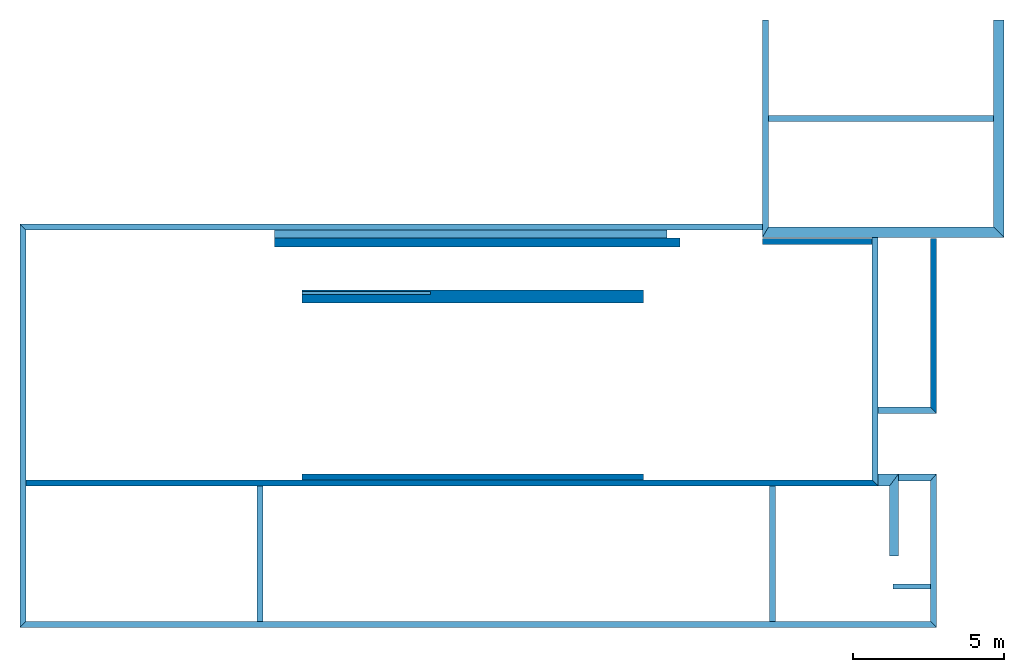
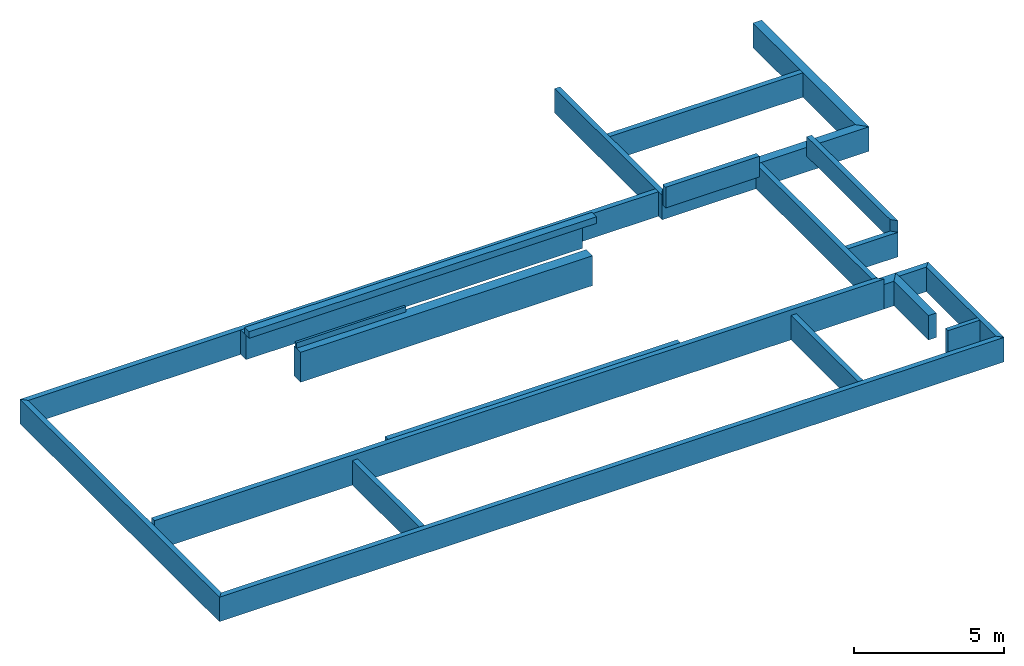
# One storey: 24 walls.
"""IFC2X3 building model written with IfcOpenShell, lengths in metres."""

import ifcopenshell
import ifcopenshell.guid

model = None  # the IFC model being written
_history = None  # IfcOwnerHistory: only IFC2X3 demands one
_inside = {}  # id of a spatial element -> (the spatial element, [elements in it])
_under = {}  # id of a project, library or spatial element -> (it, [spatial elements below it])
_declared = {}  # id of a project -> (the project, [libraries it declares])
_typed = {}  # id of a type object -> (the type object, [elements of that type])
_made_of = {}  # id of a material, layer set ... -> (it, [elements and type objects made of it])


def new_model(schema):
    """Start an empty IFC model of exactly this schema.

    Asked for "IFC4X3", IfcOpenShell would pick the latest addendum, in which some entities
    have other attributes; the version numbers below select the first issue.
    IFC2X3 requires an IfcOwnerHistory on every rooted entity: one is made here for all.
    """
    global model, _history
    if schema == "IFC4X3":
        model = ifcopenshell.file(schema_version=(4, 3, 0, 0))
    else:
        model = ifcopenshell.file(schema=schema)
    _inside.clear()
    _under.clear()
    _declared.clear()
    _typed.clear()
    _made_of.clear()
    _history = None
    if model.schema == "IFC2X3":
        org = make("IfcOrganization", Name="unknown")
        user = make(
            "IfcPersonAndOrganization",
            ThePerson=make("IfcPerson", FamilyName="unknown"),
            TheOrganization=org,
        )
        app = make(
            "IfcApplication",
            ApplicationDeveloper=org,
            Version="unknown",
            ApplicationFullName="unknown",
            ApplicationIdentifier="unknown",
        )
        _history = make(
            "IfcOwnerHistory",
            OwningUser=user,
            OwningApplication=app,
            ChangeAction="ADDED",
            CreationDate=0,
        )
    return model


def make(cls, **values):
    """One entity of the class cls with the attributes given. An attribute that is None is left unset."""
    return model.create_entity(
        cls, **{name: value for name, value in values.items() if value is not None}
    )


def entity(cls, *values):
    """Any entity or typed value of the class cls, its attributes in the order of the schema. None: left unset."""
    e = model.create_entity(cls)
    for i, value in enumerate(values):
        if value is not None:
            e[i] = value
    return e


def rooted(cls, **values):
    """An entity with a GlobalId (a new one), such as an element, a storey or a relation."""
    return make(cls, GlobalId=ifcopenshell.guid.new(), OwnerHistory=_history, **values)


def si_unit(unit_type, name, prefix=None):
    """IfcSIUnit, for example si_unit("LENGTHUNIT", "METRE", prefix="MILLI")."""
    return make("IfcSIUnit", UnitType=unit_type, Prefix=prefix, Name=name)


def converted_unit(unit_type, name, factor, base, dimensions=None, offset=None):
    """IfcConversionBasedUnit, such as the inch: factor (a typed value) times the base unit."""
    return make(
        "IfcConversionBasedUnit"
        if offset is None
        else "IfcConversionBasedUnitWithOffset",
        ConversionOffset=offset,
        Dimensions=None
        if dimensions is None
        else entity("IfcDimensionalExponents", *dimensions),
        UnitType=unit_type,
        Name=name,
        ConversionFactor=make(
            "IfcMeasureWithUnit", ValueComponent=factor, UnitComponent=base
        ),
    )


def derived_unit(unit_type, elements):
    """IfcDerivedUnit: a product of units, each with its exponent."""
    return make(
        "IfcDerivedUnit",
        Elements=[
            make("IfcDerivedUnitElement", Unit=unit, Exponent=power)
            for unit, power in elements
        ],
        UnitType=unit_type,
    )


def money_unit(currency):
    """IfcMonetaryUnit."""
    return make("IfcMonetaryUnit", Currency=currency)


def assignment(units):
    """IfcUnitAssignment: the units of a project."""
    return None if units is None else make("IfcUnitAssignment", Units=units)


def point(xyz):
    """IfcCartesianPoint."""
    return None if xyz is None else make("IfcCartesianPoint", Coordinates=xyz)


def direction(xyz):
    """IfcDirection."""
    return None if xyz is None else make("IfcDirection", DirectionRatios=xyz)


def frame(location, z_axis=None, x_axis=None):
    """IfcAxis2Placement3D, a coordinate frame: its origin and axes. An axis left out is left unset."""
    return make(
        "IfcAxis2Placement3D",
        Location=point(location),
        Axis=direction(z_axis),
        RefDirection=direction(x_axis),
    )


def origin_with_axes():
    """The frame at (0, 0, 0) with the z axis (0, 0, 1) and the x axis (1, 0, 0) written out."""
    return frame((0.0, 0.0, 0.0), z_axis=(0.0, 0.0, 1.0), x_axis=(1.0, 0.0, 0.0))


def place(relative_to, where):
    """IfcLocalPlacement: puts the frame where relative to a parent placement (None: the world)."""
    return make(
        "IfcLocalPlacement", PlacementRelTo=relative_to, RelativePlacement=where
    )


def context(
    kind, dimensions, precision=None, world=None, true_north=None, identifier=None
):
    """IfcGeometricRepresentationContext, for example the 3D "Model" context."""
    return make(
        "IfcGeometricRepresentationContext",
        ContextIdentifier=identifier,
        ContextType=kind,
        CoordinateSpaceDimension=dimensions,
        Precision=precision,
        WorldCoordinateSystem=world,
        TrueNorth=true_north,
    )


def subcontext(parent, identifier, kind, view, scale=None):
    """IfcGeometricRepresentationSubContext, for example "Body" below "Model"."""
    return make(
        "IfcGeometricRepresentationSubContext",
        ContextIdentifier=identifier,
        ContextType=kind,
        ParentContext=parent,
        TargetScale=scale,
        TargetView=view,
    )


def project(units=None, contexts=None):
    """IfcProject with its units and contexts."""
    return rooted(
        "IfcProject",
        Name="project",
        RepresentationContexts=contexts,
        UnitsInContext=assignment(units),
    )


def spatial(cls, under=None, at=None, **own):
    """A site, building, storey or space (cls), placed at a placement, below another one or the project."""
    s = rooted(cls, ObjectPlacement=at, **own)
    if under is not None:
        _under.setdefault(under.id(), (under, []))[1].append(s)
    return s


def polyline(points):
    """IfcPolyline through the points."""
    return make("IfcPolyline", Points=[point(p) for p in points])


def outline(outer, holes=None, kind="AREA"):
    """IfcArbitraryClosedProfileDef: a profile drawn as a closed curve; with holes, ...WithVoids."""
    if holes is None:
        return make("IfcArbitraryClosedProfileDef", ProfileType=kind, OuterCurve=outer)
    return make(
        "IfcArbitraryProfileDefWithVoids",
        ProfileType=kind,
        OuterCurve=outer,
        InnerCurves=holes,
    )


def extrude(swept, where, along, depth):
    """IfcExtrudedAreaSolid: the profile swept, set in the frame where, extruded along a direction by depth."""
    return make(
        "IfcExtrudedAreaSolid",
        SweptArea=swept,
        Position=where,
        ExtrudedDirection=direction(along),
        Depth=depth,
    )


def shape(context_of_items, identifier, shape_type, items):
    """IfcShapeRepresentation: the items that make up one representation, for example the "Body"."""
    return make(
        "IfcShapeRepresentation",
        ContextOfItems=context_of_items,
        RepresentationIdentifier=identifier,
        RepresentationType=shape_type,
        Items=items,
    )


def material(Name=None, Category=None):
    """IfcMaterial."""
    return make("IfcMaterial", Name=Name, Category=Category)


def layer(
    of_material, thickness, ventilated=None, Name=None, Category=None, Priority=None
):
    """IfcMaterialLayer: one layer of a wall or slab, of a material (None: an air gap)."""
    return make(
        "IfcMaterialLayer",
        Material=of_material,
        LayerThickness=thickness,
        IsVentilated=ventilated,
        Name=Name,
        Category=Category,
        Priority=Priority,
    )


def layer_set(layers, Name=None):
    """IfcMaterialLayerSet."""
    return make("IfcMaterialLayerSet", MaterialLayers=layers, LayerSetName=Name)


def layer_usage(for_layer_set, set_direction, sense, offset, extent=None):
    """IfcMaterialLayerSetUsage: how a layer set lies in its element."""
    return make(
        "IfcMaterialLayerSetUsage",
        ForLayerSet=for_layer_set,
        LayerSetDirection=set_direction,
        DirectionSense=sense,
        OffsetFromReferenceLine=offset,
        ReferenceExtent=extent,
    )


def made_of(thing, what):
    """Note that an element or type object is made of a material, layer set ...; save() writes the relation."""
    if what is not None:
        _made_of.setdefault(what.id(), (what, []))[1].append(thing)
    return thing


def type_object(cls, material=None, **own):
    """A type object (cls), such as IfcWallType, which elements share."""
    return made_of(rooted(cls, **own), material)


def element(
    cls,
    number,
    at=None,
    inside=None,
    cuts=None,
    type_object=None,
    material=None,
    context=None,
    identifier="Body",
    shape_type=None,
    held_by="IfcProductDefinitionShape",
    body=None,
    shapes=None,
    **own,
):
    """One element of the class cls, such as IfcWall. Its Tag is "e" and its number.

    at: its placement. inside: the storey or other place that contains it. cuts: it is an
    opening in that element (IfcRelVoidsElement). A single representation is given by context,
    identifier, shape_type and body (its items); several are given by shapes. held_by: the class
    of the entity that holds the representations. save() writes the other relations.
    """
    e = rooted(cls, Tag="e%d" % number, ObjectPlacement=at, **own)
    if body is not None:
        shapes = [shape(context, identifier, shape_type, body)]
    if shapes is not None:
        e.Representation = make(held_by, Representations=shapes)
    if inside is not None:
        _inside.setdefault(inside.id(), (inside, []))[1].append(e)
    if cuts is not None:
        rooted(
            "IfcRelVoidsElement", RelatingBuildingElement=cuts, RelatedOpeningElement=e
        )
    if type_object is not None:
        _typed.setdefault(type_object.id(), (type_object, []))[1].append(e)
    return made_of(e, material)


def aggregate(whole, parts):
    """IfcRelAggregates: a whole, such as a stair, and the parts it consists of."""
    return rooted("IfcRelAggregates", RelatingObject=whole, RelatedObjects=parts)


def save(model, path):
    """Write the relations noted so far, then the file.

    IfcRelAggregates (storeys below a building ...), IfcRelContainedInSpatialStructure (elements
    in a storey), IfcRelDefinesByType, IfcRelAssociatesMaterial and IfcRelDeclares: one each for
    every whole, place, type object, material and project.
    """
    for whole, parts in _under.values():
        aggregate(whole, parts)
    for where, things in _inside.values():
        rooted(
            "IfcRelContainedInSpatialStructure",
            RelatedElements=things,
            RelatingStructure=where,
        )
    for kind, things in _typed.values():
        rooted("IfcRelDefinesByType", RelatedObjects=things, RelatingType=kind)
    for what, things in _made_of.values():
        rooted("IfcRelAssociatesMaterial", RelatedObjects=things, RelatingMaterial=what)
    for by, libraries in _declared.values():
        rooted("IfcRelDeclares", RelatingContext=by, RelatedDefinitions=libraries)
    model.write(path)


model = new_model("IFC2X3")

# Units and contexts
model_context = context("Model", 3, precision=1e-05, world=origin_with_axes(), true_north=direction((0.0, 1.0)))
body_context = subcontext(model_context, "Body", "Model", "MODEL_VIEW")
ifc_project = project(units=[si_unit("LENGTHUNIT", "METRE"), si_unit("AREAUNIT", "SQUARE_METRE"), si_unit("VOLUMEUNIT", "CUBIC_METRE"), converted_unit("PLANEANGLEUNIT", "DEGREE", entity("IfcPlaneAngleMeasure", 0.0174532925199), si_unit("PLANEANGLEUNIT", "RADIAN"), dimensions=[0, 0, 0, 0, 0, 0, 0]), money_unit("CHF"), converted_unit("TIMEUNIT", "Year", entity("IfcTimeMeasure", 31556926.0), si_unit("TIMEUNIT", "SECOND"), dimensions=[0, 0, 1, 0, 0, 0, 0]), si_unit("MASSUNIT", "GRAM", prefix="KILO"), si_unit("THERMODYNAMICTEMPERATUREUNIT", "DEGREE_CELSIUS"), si_unit("LUMINOUSINTENSITYUNIT", "LUMEN"), si_unit("ENERGYUNIT", "JOULE", prefix="MEGA"), derived_unit("THERMALCONDUCTANCEUNIT", [(si_unit("POWERUNIT", "WATT"), 1), (si_unit("LENGTHUNIT", "METRE"), -1), (si_unit("THERMODYNAMICTEMPERATUREUNIT", "KELVIN"), -1)]), derived_unit("SPECIFICHEATCAPACITYUNIT", [(si_unit("ENERGYUNIT", "JOULE"), 1), (si_unit("MASSUNIT", "GRAM", prefix="KILO"), -1), (si_unit("THERMODYNAMICTEMPERATUREUNIT", "KELVIN"), -1)]), derived_unit("MASSDENSITYUNIT", [(si_unit("MASSUNIT", "GRAM", prefix="KILO"), 1), (si_unit("VOLUMEUNIT", "CUBIC_METRE"), -1)])], contexts=[model_context])

# Site, building, storey
site_placement = place(None, origin_with_axes())
site = spatial("IfcSite", under=ifc_project, at=site_placement, Name="Site", CompositionType="ELEMENT")
building_placement = place(site_placement, origin_with_axes())
building = spatial("IfcBuilding", under=site, at=building_placement, Name="Bâtiment", CompositionType="ELEMENT")
storey_placement = place(building_placement, frame((0.0, 0.0, -1.0), z_axis=(0.0, 0.0, 1.0), x_axis=(1.0, 0.0, 0.0)))
storey = spatial("IfcBuildingStorey", under=building, at=storey_placement, Name="VIDE SANITAIRE", CompositionType="ELEMENT", Elevation=-1.0)

# Walls
ifc_material_1 = material(Name="Diagonales 1167258944")
ifc_layer_1 = layer(ifc_material_1, 0.2, ventilated="UNKNOWN")
ifc_layer_set_1 = layer_set([ifc_layer_1], Name="Diagonales 1167258944 0.2")
ifc_layer_usage_1 = layer_usage(ifc_layer_set_1, "AXIS2", "NEGATIVE", 0.0)
wall_type_1 = type_object("IfcWallType", Name="Diagonales 1167258944 200", PredefinedType="NOTDEFINED")
wall_1_placement = place(storey_placement, frame((1692.36729001, 182.05004191, 0.0), z_axis=(0.0, 0.0, 1.0), x_axis=(0.0, -1.0, 0.0)))
element("IfcWallStandardCase", 1, at=wall_1_placement, inside=storey, type_object=wall_type_1, material=ifc_layer_usage_1, Name="Mur-006", context=body_context, shape_type="SweptSolid", body=[
    extrude(outline(polyline([(0.0, -0.2), (4.47, -0.2), (4.47, 0.0), (0.0, 0.0), (0.0, -0.2)])), origin_with_axes(), (0.0, 0.0, 1.0), 1.0),
])
ifc_layer_usage_2 = layer_usage(ifc_layer_set_1, "AXIS2", "POSITIVE", 0.0)
wall_2_placement = place(storey_placement, frame((1667.41729001, 182.05004191, 0.0), z_axis=(0.0, 0.0, 1.0), x_axis=(1.0, 0.0, 0.0)))
element("IfcWallStandardCase", 2, at=wall_2_placement, inside=storey, type_object=wall_type_1, material=ifc_layer_usage_2, Name="Mur-006", context=body_context, shape_type="SweptSolid", body=[
    extrude(outline(polyline([(0.2, 0.0), (28.34, 0.0), (28.14, 0.2), (0.2, 0.2), (0.2, 0.0)])), origin_with_axes(), (0.0, 0.0, 1.0), 1.22),
])
ifc_layer_usage_3 = layer_usage(ifc_layer_set_1, "AXIS2", "NEGATIVE", 0.0)
wall_3_placement = place(storey_placement, frame((1675.24729001, 177.38004191, 0.0), z_axis=(0.0, 0.0, 1.0), x_axis=(0.0, 1.0, 0.0)))
element("IfcWallStandardCase", 3, at=wall_3_placement, inside=storey, type_object=wall_type_1, material=ifc_layer_usage_3, Name="Mur-003", context=body_context, shape_type="SweptSolid", body=[
    extrude(outline(polyline([(0.2, -0.2), (4.67, -0.2), (4.67, 0.0), (0.2, 0.0), (0.2, -0.2)])), origin_with_axes(), (0.0, 0.0, 1.0), 1.0),
])
ifc_layer_usage_4 = layer_usage(ifc_layer_set_1, "AXIS2", "POSITIVE", 0.0)
wall_4_placement = place(storey_placement, frame((1697.68729001, 177.38004191, 0.0), z_axis=(0.0, 0.0, 1.0), x_axis=(0.0, 1.0, 0.0)))
element("IfcWallStandardCase", 4, at=wall_4_placement, inside=storey, type_object=wall_type_1, material=ifc_layer_usage_4, Name="Mur-004", context=body_context, shape_type="SweptSolid", body=[
    extrude(outline(polyline([(0.0, 0.0), (5.07, 0.0), (4.84, 0.2), (0.2, 0.2), (0.0, 0.0)])), origin_with_axes(), (0.0, 0.0, 1.0), 1.0),
])
ifc_layer_usage_5 = layer_usage(ifc_layer_set_1, "AXIS2", "NEGATIVE", 0.0)
wall_5_placement = place(storey_placement, frame((1667.41729001, 190.70004191, 0.0), z_axis=(0.0, 0.0, 1.0), x_axis=(1.0, 0.0, 0.0)))
element("IfcWallStandardCase", 5, at=wall_5_placement, inside=storey, type_object=wall_type_1, material=ifc_layer_usage_5, Name="Mur-004", context=body_context, shape_type="SweptSolid", body=[
    extrude(outline(polyline([(0.2, -0.2), (24.52, -0.2), (24.52, 0.0), (0.0, 0.0), (0.2, -0.2)])), origin_with_axes(), (0.0, 0.0, 1.0), 1.0),
])
ifc_layer_usage_6 = layer_usage(ifc_layer_set_1, "AXIS2", "NEGATIVE", 0.0)
wall_6_placement = place(storey_placement, frame((1691.93729001, 194.29004191, 0.0), z_axis=(0.0, 0.0, 1.0), x_axis=(1.0, 0.0, 0.0)))
element("IfcWallStandardCase", 6, at=wall_6_placement, inside=storey, type_object=wall_type_1, material=ifc_layer_usage_6, Name="Mur-005", context=body_context, shape_type="SweptSolid", body=[
    extrude(outline(polyline([(0.2, -0.2), (7.64, -0.2), (7.64, 0.0), (0.2, 0.0), (0.2, -0.2)])), origin_with_axes(), (0.0, 0.0, 1.0), 1.0),
])
ifc_layer_usage_7 = layer_usage(ifc_layer_set_1, "AXIS2", "POSITIVE", 0.0)
wall_7_placement = place(storey_placement, frame((1695.75729001, 182.05004191, 0.0), z_axis=(0.0, 0.0, 1.0), x_axis=(0.0, 1.0, 0.0)))
element("IfcWallStandardCase", 7, at=wall_7_placement, inside=storey, type_object=wall_type_1, material=ifc_layer_usage_7, Name="Mur-004", context=body_context, shape_type="SweptSolid", body=[
    extrude(outline(polyline([(0.0, 0.0), (8.21, 0.0), (8.21, 0.2), (0.2, 0.2), (0.0, 0.0)])), origin_with_axes(), (0.0, 0.0, 1.0), 1.0),
])
ifc_layer_usage_8 = layer_usage(ifc_layer_set_1, "AXIS2", "NEGATIVE", 0.0)
wall_8_placement = place(storey_placement, frame((1691.93729001, 190.26004191, 0.0), z_axis=(0.0, 0.0, 1.0), x_axis=(0.0, 1.0, 0.0)))
element("IfcWallStandardCase", 8, at=wall_8_placement, inside=storey, type_object=wall_type_1, material=ifc_layer_usage_8, Name="Mur-005", context=body_context, shape_type="SweptSolid", body=[
    extrude(outline(polyline([(0.34, -0.2), (7.18, -0.2), (7.18, 0.0), (0.0, 0.0), (0.34, -0.2)])), origin_with_axes(), (0.0, 0.0, 1.0), 1.0),
])
ifc_layer_usage_9 = layer_usage(ifc_layer_set_1, "AXIS2", "NEGATIVE", 0.0)
wall_9_placement = place(storey_placement, frame((1676.73729001, 182.45004191, 0.0), z_axis=(0.0, 0.0, 1.0), x_axis=(1.0, 0.0, 0.0)))
element("IfcWallStandardCase", 9, at=wall_9_placement, inside=storey, type_object=wall_type_1, material=ifc_layer_usage_9, Name="Mur-003", context=body_context, shape_type="SweptSolid", body=[
    extrude(outline(polyline([(0.0, -0.2), (11.2716278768, -0.2), (11.2716278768, 0.0), (0.0, 0.0), (0.0, -0.2)])), origin_with_axes(), (0.0, 0.0, 1.0), 1.22),
])
ifc_layer_usage_10 = layer_usage(ifc_layer_set_1, "AXIS2", "NEGATIVE", 0.0)
wall_10_placement = place(storey_placement, frame((1667.41729001, 177.38004191, 0.0), z_axis=(0.0, 0.0, 1.0), x_axis=(0.0, 1.0, 0.0)))
element("IfcWallStandardCase", 10, at=wall_10_placement, inside=storey, type_object=wall_type_1, material=ifc_layer_usage_10, Name="Mur-003", context=body_context, shape_type="SweptSolid", body=[
    extrude(outline(polyline([(0.2, -0.2), (13.12, -0.2), (13.32, 0.0), (0.0, 0.0), (0.2, -0.2)])), origin_with_axes(), (0.0, 0.0, 1.0), 1.0),
])
ifc_layer_usage_11 = layer_usage(ifc_layer_set_1, "AXIS2", "POSITIVE", 0.0)
wall_11_placement = place(storey_placement, frame((1667.41729001, 177.38004191, 0.0), z_axis=(0.0, 0.0, 1.0), x_axis=(1.0, 0.0, 0.0)))
element("IfcWallStandardCase", 11, at=wall_11_placement, inside=storey, type_object=wall_type_1, material=ifc_layer_usage_11, Name="Mur-003", context=body_context, shape_type="SweptSolid", body=[
    extrude(outline(polyline([(0.0, 0.0), (30.27, 0.0), (30.07, 0.2), (0.2, 0.2), (0.0, 0.0)])), origin_with_axes(), (0.0, 0.0, 1.0), 1.0),
])
ifc_layer_usage_12 = layer_usage(ifc_layer_set_1, "AXIS2", "NEGATIVE", 0.0)
wall_12_placement = place(storey_placement, frame((1697.68729001, 190.22004191, 0.674561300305), z_axis=(0.0, 0.0, 1.0), x_axis=(0.0, -1.0, 0.0)))
element("IfcWallStandardCase", 12, at=wall_12_placement, inside=storey, type_object=wall_type_1, material=ifc_layer_usage_12, Name="Mur-004", context=body_context, shape_type="SweptSolid", body=[
    extrude(outline(polyline([(0.0, -0.2), (5.57, -0.2), (5.77, 0.0), (0.0, 0.0), (0.0, -0.2)])), origin_with_axes(), (0.0, 0.0, 1.0), 0.795438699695),
])
ifc_layer_usage_13 = layer_usage(ifc_layer_set_1, "AXIS2", "NEGATIVE", 0.0)
wall_13_placement = place(storey_placement, frame((1697.68729001, 184.45004191, 0.0), z_axis=(0.0, 0.0, 1.0), x_axis=(-1.0, 0.0, 0.0)))
element("IfcWallStandardCase", 13, at=wall_13_placement, inside=storey, type_object=wall_type_1, material=ifc_layer_usage_13, Name="Mur-004", context=body_context, shape_type="SweptSolid", body=[
    extrude(outline(polyline([(0.2, -0.2), (1.93, -0.2), (1.93, 0.0), (0.0, 0.0), (0.2, -0.2)])), origin_with_axes(), (0.0, 0.0, 1.0), 1.0),
])
ifc_layer_2 = layer(ifc_material_1, 0.55, ventilated="UNKNOWN")
ifc_layer_set_2 = layer_set([ifc_layer_2], Name="Diagonales 1167258944 0.55")
ifc_layer_usage_14 = layer_usage(ifc_layer_set_2, "AXIS2", "NEGATIVE", 0.0)
wall_type_2 = type_object("IfcWallType", Name="Diagonales 1167258944 550", PredefinedType="NOTDEFINED")
wall_14_placement = place(storey_placement, frame((1675.81729001, 190.70004191, 0.0), z_axis=(0.0, 0.0, 1.0), x_axis=(1.0, 0.0, 0.0)))
element("IfcWallStandardCase", 14, at=wall_14_placement, inside=storey, type_object=wall_type_2, material=ifc_layer_usage_14, Name="Mur-003", context=body_context, shape_type="SweptSolid", body=[
    extrude(outline(polyline([(0.0, -0.55), (12.9761462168, -0.55), (12.9761462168, 0.0), (0.0, 0.0), (0.0, -0.55)])), origin_with_axes(), (0.0, 0.0, 1.0), 1.0),
])
ifc_layer_3 = layer(ifc_material_1, 0.42, ventilated="UNKNOWN")
ifc_layer_set_3 = layer_set([ifc_layer_3], Name="Diagonales 1167258944 0.42")
ifc_layer_usage_15 = layer_usage(ifc_layer_set_3, "AXIS2", "NEGATIVE", 0.0)
wall_type_3 = type_object("IfcWallType", Name="Diagonales 1167258944 420", PredefinedType="NOTDEFINED")
wall_15_placement = place(storey_placement, frame((1676.73729001, 188.520041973, 0.0), z_axis=(0.0, 0.0, 1.0), x_axis=(1.0, 0.0, 0.0)))
element("IfcWallStandardCase", 15, at=wall_15_placement, inside=storey, type_object=wall_type_3, material=ifc_layer_usage_15, Name="Mur-003", context=body_context, shape_type="SweptSolid", body=[
    extrude(outline(polyline([(0.0, -0.42), (11.2716278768, -0.42), (11.2716278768, 0.0), (0.0, 0.0), (0.0, -0.42)])), origin_with_axes(), (0.0, 0.0, 1.0), 1.22),
])
ifc_layer_4 = layer(ifc_material_1, 0.34, ventilated="UNKNOWN")
ifc_layer_set_4 = layer_set([ifc_layer_4], Name="Diagonales 1167258944 0.34")
ifc_layer_usage_16 = layer_usage(ifc_layer_set_4, "AXIS2", "POSITIVE", 0.0)
wall_type_4 = type_object("IfcWallType", Name="Diagonales 1167258944 340", PredefinedType="NOTDEFINED")
wall_16_placement = place(storey_placement, frame((1699.91729001, 190.26004191, 0.0), z_axis=(0.0, 0.0, 1.0), x_axis=(0.0, 1.0, 0.0)))
element("IfcWallStandardCase", 16, at=wall_16_placement, inside=storey, type_object=wall_type_4, material=ifc_layer_usage_16, Name="Mur-005", context=body_context, shape_type="SweptSolid", body=[
    extrude(outline(polyline([(0.0, 0.0), (7.18, 0.0), (7.18, 0.34), (0.34, 0.34), (0.0, 0.0)])), origin_with_axes(), (0.0, 0.0, 1.0), 1.0),
])
ifc_layer_usage_17 = layer_usage(ifc_layer_set_4, "AXIS2", "NEGATIVE", 0.0)
wall_17_placement = place(storey_placement, frame((1699.91729001, 190.26004191, 0.0), z_axis=(0.0, 0.0, 1.0), x_axis=(-1.0, 0.0, 0.0)))
element("IfcWallStandardCase", 17, at=wall_17_placement, inside=storey, type_object=wall_type_4, material=ifc_layer_usage_17, Name="Mur-006", context=body_context, shape_type="SweptSolid", body=[
    extrude(outline(polyline([(0.34, -0.34), (7.78, -0.34), (7.98, 0.0), (0.0, 0.0), (0.34, -0.34)])), origin_with_axes(), (0.0, 0.0, 1.0), 1.0),
])
ifc_layer_5 = layer(ifc_material_1, 0.09, ventilated="UNKNOWN")
ifc_layer_set_5 = layer_set([ifc_layer_5], Name="Diagonales 1167258944 0.09")
ifc_layer_usage_18 = layer_usage(ifc_layer_set_5, "AXIS2", "NEGATIVE", 0.0)
wall_type_5 = type_object("IfcWallType", Name="Diagonales 1167258944 90", PredefinedType="NOTDEFINED")
wall_18_placement = place(storey_placement, frame((1676.73729001, 188.470041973, 1.22), z_axis=(0.0, 0.0, 1.0), x_axis=(1.0, 0.0, 0.0)))
element("IfcWallStandardCase", 18, at=wall_18_placement, inside=storey, type_object=wall_type_5, material=ifc_layer_usage_18, Name="Mur-003", context=body_context, shape_type="SweptSolid", body=[
    extrude(outline(polyline([(0.0, -0.09), (4.23, -0.09), (4.23, 0.0), (0.0, 0.0), (0.0, -0.09)])), origin_with_axes(), (0.0, 0.0, 1.0), 0.22),
])
ifc_layer_6 = layer(ifc_material_1, 0.17, ventilated="UNKNOWN")
ifc_layer_set_6 = layer_set([ifc_layer_6], Name="Diagonales 1167258944 0.17")
ifc_layer_usage_19 = layer_usage(ifc_layer_set_6, "AXIS2", "POSITIVE", 0.0)
wall_type_6 = type_object("IfcWallType", Name="Diagonales 1167258944 170", PredefinedType="NOTDEFINED")
wall_19_placement = place(storey_placement, frame((1696.25729001, 178.65004191, 0.0), z_axis=(0.0, 0.0, 1.0), x_axis=(1.0, 0.0, 0.0)))
element("IfcWallStandardCase", 19, at=wall_19_placement, inside=storey, type_object=wall_type_6, material=ifc_layer_usage_19, Name="Mur-007", context=body_context, shape_type="SweptSolid", body=[
    extrude(outline(polyline([(0.0, 0.0), (1.23, 0.0), (1.23, 0.17), (0.0, 0.17), (0.0, 0.0)])), origin_with_axes(), (0.0, 0.0, 1.0), 1.0),
])
ifc_layer_7 = layer(ifc_material_1, 0.23, ventilated="UNKNOWN")
ifc_layer_set_7 = layer_set([ifc_layer_7], Name="Diagonales 1167258944 0.23")
ifc_layer_usage_20 = layer_usage(ifc_layer_set_7, "AXIS2", "POSITIVE", 0.0)
wall_type_7 = type_object("IfcWallType", Name="Diagonales 1167258944 230", PredefinedType="NOTDEFINED")
wall_20_placement = place(storey_placement, frame((1697.68729001, 182.45004191, 0.0), z_axis=(0.0, 0.0, 1.0), x_axis=(-1.0, 0.0, 0.0)))
element("IfcWallStandardCase", 20, at=wall_20_placement, inside=storey, type_object=wall_type_7, material=ifc_layer_usage_20, Name="Mur-005", context=body_context, shape_type="SweptSolid", body=[
    extrude(outline(polyline([(0.0, 0.0), (1.25, 0.0), (1.25, 0.23), (0.2, 0.23), (0.0, 0.0)])), origin_with_axes(), (0.0, 0.0, 1.0), 1.0),
])
ifc_layer_8 = layer(ifc_material_1, 0.4, ventilated="UNKNOWN")
ifc_layer_set_8 = layer_set([ifc_layer_8], Name="Diagonales 1167258944 0.4")
ifc_layer_usage_21 = layer_usage(ifc_layer_set_8, "AXIS2", "POSITIVE", 0.0)
wall_type_8 = type_object("IfcWallType", Name="Diagonales 1167258944 400", PredefinedType="NOTDEFINED")
wall_21_placement = place(storey_placement, frame((1696.43729001, 182.45004191, 0.0), z_axis=(0.0, 0.0, 1.0), x_axis=(-1.0, 0.0, 0.0)))
element("IfcWallStandardCase", 21, at=wall_21_placement, inside=storey, type_object=wall_type_8, material=ifc_layer_usage_21, Name="Mur-005", context=body_context, shape_type="SweptSolid", body=[
    extrude(outline(polyline([(0.0, 0.0), (0.68, 0.0), (0.68, 0.4), (0.3, 0.4), (0.0, 0.0)])), origin_with_axes(), (0.0, 0.0, 1.0), 1.0),
])
ifc_layer_9 = layer(ifc_material_1, 0.3, ventilated="UNKNOWN")
ifc_layer_set_9 = layer_set([ifc_layer_9], Name="Diagonales 1167258944 0.3")
ifc_layer_usage_22 = layer_usage(ifc_layer_set_9, "AXIS2", "NEGATIVE", 0.0)
wall_type_9 = type_object("IfcWallType", Name="Diagonales 1167258944 300", PredefinedType="NOTDEFINED")
wall_22_placement = place(storey_placement, frame((1696.43729001, 182.45004191, 0.0), z_axis=(0.0, 0.0, 1.0), x_axis=(0.0, -1.0, 0.0)))
element("IfcWallStandardCase", 22, at=wall_22_placement, inside=storey, type_object=wall_type_9, material=ifc_layer_usage_22, Name="Mur-006", context=body_context, shape_type="SweptSolid", body=[
    extrude(outline(polyline([(0.4, -0.3), (2.70999998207, -0.3), (2.70999998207, 0.0), (0.0, 0.0), (0.4, -0.3)])), origin_with_axes(), (0.0, 0.0, 1.0), 1.0),
])
ifc_layer_usage_23 = layer_usage(ifc_layer_set_9, "AXIS2", "NEGATIVE", 0.0)
wall_23_placement = place(storey_placement, frame((1675.81729001, 190.24004191, 1.0), z_axis=(0.0, 0.0, 1.0), x_axis=(1.0, 0.0, 0.0)))
element("IfcWallStandardCase", 23, at=wall_23_placement, inside=storey, type_object=wall_type_9, material=ifc_layer_usage_23, Name="Mur-003", context=body_context, shape_type="SweptSolid", body=[
    extrude(outline(polyline([(0.0, -0.3), (13.4068685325, -0.3), (13.4068685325, 0.0), (0.0, 0.0), (0.0, -0.3)])), origin_with_axes(), (0.0, 0.0, 1.0), 0.27),
])
ifc_material_2 = material(Name="50 % 1167783752")
ifc_layer_10 = layer(ifc_material_2, 0.2, ventilated="UNKNOWN")
ifc_layer_set_10 = layer_set([ifc_layer_10], Name="50 % 1167783752 0.2")
ifc_layer_usage_24 = layer_usage(ifc_layer_set_10, "AXIS2", "POSITIVE", 0.0)
wall_type_10 = type_object("IfcWallType", Name="50 % 1167783752 200", PredefinedType="NOTDEFINED")
wall_24_placement = place(storey_placement, frame((1695.75729001, 190.22004191, 0.627741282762), z_axis=(0.0, 0.0, 1.0), x_axis=(-1.0, 0.0, 0.0)))
element("IfcWallStandardCase", 24, at=wall_24_placement, inside=storey, type_object=wall_type_10, material=ifc_layer_usage_24, Name="Mur-004", context=body_context, shape_type="SweptSolid", body=[
    extrude(outline(polyline([(0.2, 0.0), (3.82000000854, 0.0), (3.82000000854, 0.2), (0.2, 0.2), (0.2, 0.0)])), origin_with_axes(), (0.0, 0.0, 1.0), 0.842258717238),
])

save(model, "model.ifc")
